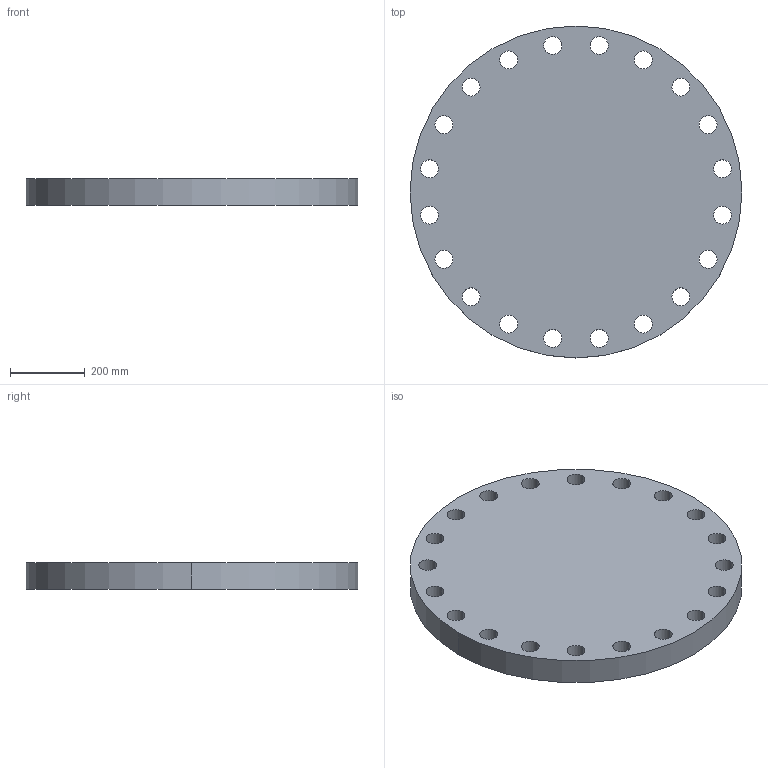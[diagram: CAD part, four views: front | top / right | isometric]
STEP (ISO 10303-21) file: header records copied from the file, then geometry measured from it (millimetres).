
FILE_DESCRIPTION (( 'STEP AP214' ), '1' );
FILE_NAME ('PN40 DN600 Type 05 - Type A Face.STEP', '2018-12-28T23:15:47', ( '' ), ( '' ), 'SwSTEP 2.0', 'SolidWorks 2019', '' );
FILE_SCHEMA (( 'AUTOMOTIVE_DESIGN' ));
Length unit declared in the file: millimetre
Products named in the file (1): PN40 DN600 Type 05 - Type A Face
Bounding box: 890 x 890 x 72 mm (x, y, z)
Volume: 42186437.1 mm3; surface area: 1590305.6 mm2
Topology: 1 solids, 1 shells, 44 faces, 126 edges, 84 vertices
Faces by surface type: cylinder 42, plane 2
Entity records: 1608 total; most frequent: DIRECTION 300, CARTESIAN_POINT 255, ORIENTED_EDGE 252, AXIS2_PLACEMENT_3D 129, EDGE_CURVE 126, CIRCLE 84, VERTEX_POINT 84, EDGE_LOOP 84
